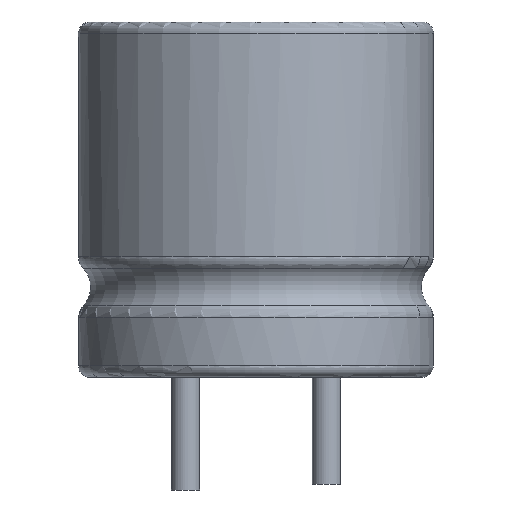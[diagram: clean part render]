
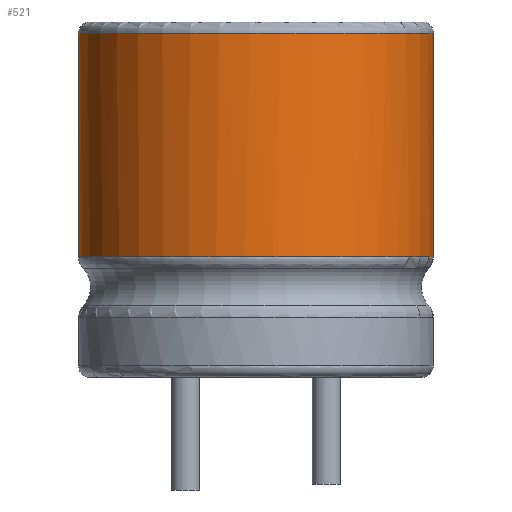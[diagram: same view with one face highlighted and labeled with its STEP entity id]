
A CAD part, front view. The second image highlights one B-rep face of the part: STEP entity #521.
In plain terms, the highlighted cylindrical face has radius 3.15 mm (diameter 6.3 mm), a full revolution.
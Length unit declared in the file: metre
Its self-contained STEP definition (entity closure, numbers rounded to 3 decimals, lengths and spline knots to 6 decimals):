
#89=B_SPLINE_CURVE_WITH_KNOTS('',3,(#868,#869,#870,#871,#872,#873,#874,
#875,#876,#877,#878),.UNSPECIFIED.,.F.,.F.,(4,1,1,1,1,1,1,1,4),(0.,
0.125,0.25,0.375,0.5,
0.625,0.75,0.875,1.),.UNSPECIFIED.);
#91=B_SPLINE_CURVE_WITH_KNOTS('',3,(#885,#886,#887,#888),.UNSPECIFIED.,
 .F.,.F.,(4,4),(0.,2.474004),.UNSPECIFIED.);
#133=CYLINDRICAL_SURFACE('',#567,0.00315);
#178=ORIENTED_EDGE('',*,*,#284,.T.);
#179=ORIENTED_EDGE('',*,*,#283,.F.);
#180=ORIENTED_EDGE('',*,*,#281,.F.);
#281=EDGE_CURVE('',#341,#342,#89,.F.);
#283=EDGE_CURVE('',#342,#341,#91,.F.);
#284=EDGE_CURVE('',#343,#343,#378,.F.);
#341=VERTEX_POINT('',#867);
#342=VERTEX_POINT('',#879);
#343=VERTEX_POINT('',#891);
#378=CIRCLE('',#568,0.00315);
#414=EDGE_LOOP('',(#178));
#415=EDGE_LOOP('',(#179,#180));
#462=FACE_BOUND('',#414,.T.);
#463=FACE_BOUND('',#415,.T.);
#521=ADVANCED_FACE('',(#462,#463),#133,.T.);
#567=AXIS2_PLACEMENT_3D('',#889,#642,#643);
#568=AXIS2_PLACEMENT_3D('',#890,#644,#645);
#642=DIRECTION('',(0.,0.,1.));
#643=DIRECTION('',(0.924,-0.383,0.));
#644=DIRECTION('',(0.,0.,1.));
#645=DIRECTION('',(1.,0.,0.));
#867=CARTESIAN_POINT('',(0.016663,0.011301,0.00373));
#868=CARTESIAN_POINT('',(0.016663,0.013711,0.00373));
#869=CARTESIAN_POINT('',(0.016387,0.014378,0.00373));
#870=CARTESIAN_POINT('',(0.015359,0.015511,0.00373));
#871=CARTESIAN_POINT('',(0.013088,0.015848,0.00373));
#872=CARTESIAN_POINT('',(0.011118,0.014668,0.00373));
#873=CARTESIAN_POINT('',(0.010345,0.012506,0.00373));
#874=CARTESIAN_POINT('',(0.011118,0.010344,0.00373));
#875=CARTESIAN_POINT('',(0.013088,0.009163,0.00373));
#876=CARTESIAN_POINT('',(0.015359,0.009501,0.00373));
#877=CARTESIAN_POINT('',(0.016387,0.010634,0.00373));
#878=CARTESIAN_POINT('',(0.016663,0.011301,0.00373));
#879=CARTESIAN_POINT('',(0.016663,0.013711,0.00373));
#885=CARTESIAN_POINT('',(0.016663,0.011301,0.00373));
#886=CARTESIAN_POINT('',(0.016978,0.012062,0.00373));
#887=CARTESIAN_POINT('',(0.016978,0.01295,0.00373));
#888=CARTESIAN_POINT('',(0.016663,0.013711,0.00373));
#889=CARTESIAN_POINT('',(0.013752,0.012506,0.003595));
#890=CARTESIAN_POINT('',(0.013752,0.012506,0.007695));
#891=CARTESIAN_POINT('',(0.016902,0.012506,0.007695));
